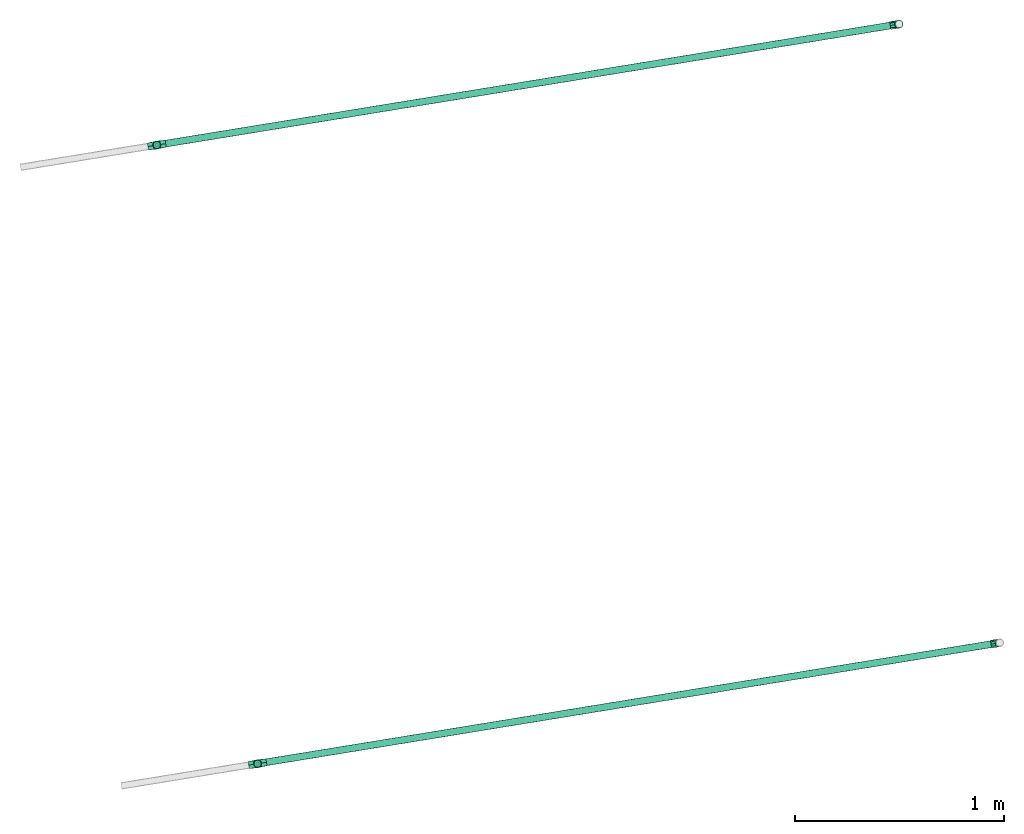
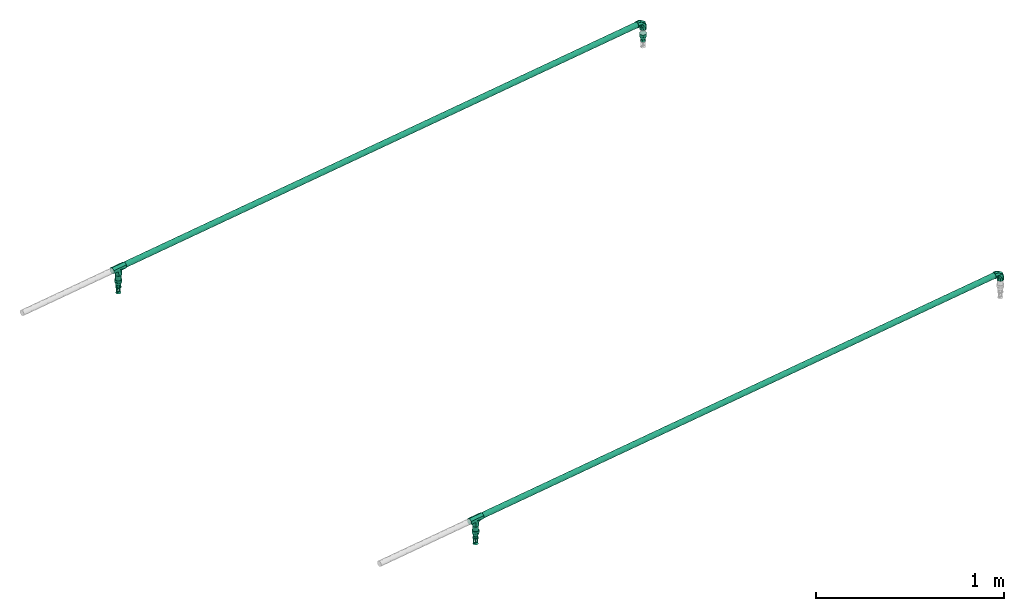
# One storey, part 1 of 3: 7 flow fittings, 4 flow segments, 2 flow terminals.
"""IFC2X3 building model written with IfcOpenShell, lengths in millimetres."""

from ifc_helpers import new_model, entity, si_unit, converted_unit, derived_unit, direction, frame, origin, origin_with_axes, origin_2d_with_axis, place, context, subcontext, project, spatial, circle, extrude, faceted_brep, source, transform, mapped, material, type_object, element, save


model = new_model("IFC2X3")

# Units and contexts
plan_context = context("Plan", 3, precision=1e-05, world=origin_with_axes())
model_context = context("Model", 3, precision=0.01, world=origin(), true_north=direction((6.12323399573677e-17, 1.0)))
body_context = subcontext(model_context, "Body", "Model", "MODEL_VIEW")
ifc_project = project(units=[converted_unit("PLANEANGLEUNIT", "DEGREE", entity("IfcPositiveLengthMeasure", 0.0174532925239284), si_unit("PLANEANGLEUNIT", "RADIAN"), dimensions=[0, 0, 0, 0, 0, 0, 0]), si_unit("AREAUNIT", "SQUARE_METRE"), si_unit("LENGTHUNIT", "METRE", prefix="MILLI"), si_unit("MASSUNIT", "GRAM", prefix="KILO"), si_unit("POWERUNIT", "WATT"), si_unit("PRESSUREUNIT", "PASCAL", prefix="KILO"), si_unit("FORCEUNIT", "NEWTON", prefix="KILO"), si_unit("ELECTRICVOLTAGEUNIT", "VOLT"), si_unit("ELECTRICCURRENTUNIT", "AMPERE"), si_unit("THERMODYNAMICTEMPERATUREUNIT", "DEGREE_CELSIUS"), si_unit("TIMEUNIT", "SECOND"), si_unit("VOLUMEUNIT", "CUBIC_METRE"), derived_unit("LINEARVELOCITYUNIT", [(si_unit("LENGTHUNIT", "METRE"), 1), (si_unit("TIMEUNIT", "SECOND"), -1)]), derived_unit("VOLUMETRICFLOWRATEUNIT", [(si_unit("VOLUMEUNIT", "CUBIC_METRE"), 1), (si_unit("TIMEUNIT", "SECOND"), -1)]), derived_unit("THERMALTRANSMITTANCEUNIT", [(si_unit("POWERUNIT", "WATT"), 1), (si_unit("THERMODYNAMICTEMPERATUREUNIT", "KELVIN"), -1), (si_unit("AREAUNIT", "SQUARE_METRE"), -1)]), derived_unit("SOUNDPRESSUREUNIT", [(si_unit("PRESSUREUNIT", "PASCAL"), 1)])], contexts=[model_context, plan_context])

# Site, building, storey
site_placement = place(None, frame((-3.09682673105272e-06, 1.93776733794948e-05, 0.0), z_axis=(0.0, 0.0, 1.0), x_axis=(-0.160806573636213, 0.986985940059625, 0.0)))
site = spatial("IfcSite", under=ifc_project, at=site_placement, Name="Default", CompositionType="ELEMENT")
building_placement = place(site_placement, frame((0.0, 0.0, 0.0), z_axis=(0.0, 0.0, 1.0), x_axis=(1.0, -2.77555756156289e-17, 0.0)))
building = spatial("IfcBuilding", under=site, at=building_placement, Name="Bygning (endres i Project Information)", CompositionType="ELEMENT")
storey_placement = place(building_placement, frame((0.0, 0.0, 51360.0000000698), z_axis=(0.0, 0.0, 1.0), x_axis=(1.0, -2.77555756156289e-17, 0.0)))
storey = spatial("IfcBuildingStorey", under=building, at=storey_placement, Name="H01-Nivå D+0,36", CompositionType="ELEMENT", Elevation=51360.0000000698)

# Flow fittings
ifc_material = material(Name="3320.001")
pipe_fitting_type_1 = type_object("IfcPipeFittingType", Name="RS_53_PIF_UN_Tee-Reduced-EN10241_MC_gen:RS_53_PIF_UN_Tee-Reduced-EN10241_MC_gen", PredefinedType="NOTDEFINED", material=ifc_material)
shared_shape_1 = source(origin(), body_context, "Body", "Brep", [
    faceted_brep([(43.0, 19.7499999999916, 0.0), (43.0, 14.8124999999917, 8.55200086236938), (43.0, 9.87499999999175, 17.1040017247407), (43.0, 0.0, 17.1040017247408), (43.0, -9.87500000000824, 17.1040017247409), (43.0, -14.8125000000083, 8.55200086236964), (43.0, -19.7500000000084, 0.0), (43.0, -17.2812500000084, -4.27600043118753), (43.0, -14.8125000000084, -8.5520008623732), (43.0, -9.87500000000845, -17.1040017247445), (43.0, 0.0, -17.1040017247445), (43.0, 9.87499999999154, -17.1040017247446), (43.0, 14.8124999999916, -8.55200086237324), (-43.0, -9.87500000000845, -17.1040017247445), (-43.0, -14.8125000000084, -8.5520008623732), (-43.0, -19.7500000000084, 0.0), (-43.0, -17.2812500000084, 4.27600043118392), (-43.0, -14.8125000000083, 8.55200086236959), (-43.0, -9.87500000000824, 17.1040017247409), (-43.0, 0.0, 17.1040017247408), (-43.0, 9.87499999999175, 17.1040017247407), (-43.0, 15.496258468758, 7.36769645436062), (-43.0, 19.7499999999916, 0.0), (-43.0, 14.8124999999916, -8.55200086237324), (-43.0, 9.87499999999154, -17.1040017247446), (-43.0, 0.0, -17.1040017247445), (-15.7586280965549, -15.758628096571, 7.52077834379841), (-15.4097526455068, -15.4097526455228, 8.1781500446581), (-11.069505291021, -11.0695052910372, 16.3563000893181), (17.0407619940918, -17.0407619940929, 6.79466555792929), (19.7500000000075, -19.7500000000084, 0.0), (0.0, 0.0, 19.7499999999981), (14.3315239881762, -14.3315239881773, 13.5893311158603), (-19.7499999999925, -19.7500000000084, 0.0), (-17.040761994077, -17.0407619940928, -6.79466555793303), (-14.3315239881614, -14.3315239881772, -13.5893311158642), (0.0, 0.0, -19.7500000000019), (15.7586280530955, -15.7586280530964, -7.52077842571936), (11.0695052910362, -11.0695052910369, -16.3563000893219), (15.4097526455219, -15.4097526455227, -8.17815004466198), (9.87500000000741, -43.0, -17.1040017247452), (15.4962587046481, -43.0, -7.36769604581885), (19.7500000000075, -43.0, 0.0), (14.8125000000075, -43.0, 8.55200086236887), (9.87500000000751, -43.0, 17.1040017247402), (0.0, -43.0, 17.1040017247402), (-9.87499999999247, -43.0, 17.1040017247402), (-15.4962580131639, -43.0, 7.36769724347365), (-19.7499999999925, -43.0, 0.0), (-14.8124999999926, -43.0, -8.55200086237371), (-9.87499999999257, -43.0, -17.1040017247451), (0.0, -43.0, -17.1040017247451)], [[[0, 1, 2, 3, 4, 5, 6, 7, 8, 9, 10, 11, 12]], [[13, 14, 15, 16, 17, 18, 19, 20, 21, 22, 23, 24, 25]], [[2, 1, 0, 22, 21, 20]], [[17, 26, 27, 28]], [[6, 29, 30]], [[2, 20, 31]], [[5, 32, 29]], [[3, 2, 31, 4]], [[26, 17, 16]], [[19, 18, 28]], [[33, 16, 15]], [[28, 18, 17]], [[32, 4, 31]], [[33, 26, 16]], [[5, 29, 6]], [[31, 20, 19]], [[32, 5, 4]], [[28, 31, 19]], [[34, 15, 14]], [[35, 14, 13]], [[36, 13, 25, 24]], [[37, 8, 7]], [[8, 38, 9]], [[15, 34, 33]], [[6, 30, 7]], [[14, 35, 34]], [[13, 36, 35]], [[8, 37, 39, 38]], [[0, 12, 11, 24, 23, 22]], [[38, 10, 9]], [[38, 36, 10]], [[11, 36, 24]], [[30, 37, 7]], [[36, 11, 10]], [[40, 41, 42, 43, 44, 45, 46, 47, 48, 49, 50, 51]], [[49, 33, 34, 35]], [[41, 39, 37, 30]], [[35, 50, 49]], [[33, 49, 48]], [[38, 51, 36]], [[40, 51, 38]], [[40, 39, 41]], [[30, 42, 41]], [[39, 40, 38]], [[51, 50, 36]], [[36, 50, 35]], [[43, 30, 29, 32]], [[32, 44, 43]], [[31, 44, 32]], [[30, 43, 42]], [[28, 45, 31]], [[46, 45, 28]], [[46, 27, 47]], [[46, 28, 27]], [[47, 27, 26, 33]], [[33, 48, 47]], [[45, 44, 31]]]),
])
for number, where, z_axis, x_axis in (
    (1, (974074.474921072, -366862.17591735, 2040.0), (1.0, -2.77555756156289e-17, 0.0), (2.77555756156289e-17, 1.0, 0.0)),
    (2, (977072.416933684, -366862.17591735, 2040.0), (1.0, -2.77555756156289e-17, 0.0), (2.77555756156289e-17, 1.0, 0.0)),
):
    element("IfcFlowFitting", number, at=place(storey_placement, frame(where, z_axis=z_axis, x_axis=x_axis)), inside=storey, type_object=pipe_fitting_type_1, material=ifc_material, Name="RS_53_PIF_UN_Tee-Reduced-EN10241_MC_gen:RS_53_PIF_UN_Tee-Reduced-EN10241_MC_gen", ObjectType="RS_53_PIF_UN_Tee-Reduced-EN10241_MC_gen:RS_53_PIF_UN_Tee-Reduced-EN10241_MC_gen", context=body_context, shape_type="MappedRepresentation", body=[
        mapped(shared_shape_1, transform((0.0, 0.0, 0.0), scale=1.0)),
    ])
pipe_fitting_type_2 = type_object("IfcPipeFittingType", Name="RS_53_PIF_UN_Reducing-Socket-EN10241_MC_gen:RS_53_PIF_UN_Reducing-Socket-EN10241_MC_gen", PredefinedType="NOTDEFINED", material=ifc_material)
shared_shape_2 = source(origin(), body_context, "Body", "Brep", [
    faceted_brep([(0.0, 5.11167614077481, 19.0770350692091), (0.0, 9.87500000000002, 17.1040017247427), (0.0, 13.9653589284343, 13.9653589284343), (0.0, 17.1040017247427, 9.87499999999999), (0.0, 19.0770350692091, 5.11167614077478), (0.0, 19.75, 0.0), (0.0, 19.0770350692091, -5.1116761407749), (0.0, 17.1040017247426, -9.8750000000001), (0.0, 13.9653589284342, -13.9653589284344), (0.0, 9.87499999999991, -17.1040017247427), (0.0, 5.11167614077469, -19.0770350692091), (0.0, 0.0, -19.75), (0.0, -5.11167614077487, -19.0770350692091), (0.0, -9.87500000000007, -17.1040017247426), (0.0, -13.9653589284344, -13.9653589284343), (0.0, -17.1040017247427, -9.87499999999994), (0.0, -19.0770350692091, -5.11167614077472), (0.0, -19.75, 0.0), (0.0, -19.0770350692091, 5.11167614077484), (0.0, -17.1040017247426, 9.87500000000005), (0.0, -13.9653589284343, 13.9653589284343), (0.0, -9.87499999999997, 17.1040017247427), (0.0, -5.11167614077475, 19.0770350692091), (0.0, 0.0, 19.75), (17.0, -6.65118285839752, -18.277344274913), (17.0, -15.1289479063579, -12.6955675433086), (17.0, -16.8438814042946, -9.72538978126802), (17.0, -18.5588149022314, -6.7552120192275), (17.0, -9.87413131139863, -17.1045032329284), (17.0, -12.5015396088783, -14.9000353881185), (17.0, -19.1544074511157, -3.37760600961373), (17.0, -3.42823440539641, -19.4501853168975), (17.0, 3.43119786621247, -19.4496627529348), (17.0, 0.0014817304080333, -19.4499240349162), (17.0, -19.75, 0.0), (17.0, 6.65396758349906, -18.2763306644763), (17.0, 9.87673730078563, -17.1029985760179), (17.0, 18.5598439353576, -6.75238425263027), (17.0, 16.8453630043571, -9.7228232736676), (17.0, 15.1308820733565, -12.6932622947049), (17.0, 12.5038096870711, -14.8981304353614), (17.0, 19.75, 0.0), (17.0, 15.1308820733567, 12.6932622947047), (17.0, 16.8453630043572, 9.72282327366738), (17.0, 18.5598439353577, 6.75238425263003), (17.0, 9.87673730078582, 17.1029985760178), (17.0, 12.5038096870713, 14.8981304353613), (17.0, 3.43119786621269, 19.4496627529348), (17.0, 6.65396758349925, 18.2763306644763), (17.0, -3.4282344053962, 19.4501853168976), (17.0, 0.00148173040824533, 19.4499240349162), (17.0, -15.1289479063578, 12.6955675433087), (17.0, -6.65118285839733, 18.277344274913), (17.0, -9.87413131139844, 17.1045032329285), (17.0, -12.5015396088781, 14.9000353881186), (17.0, -19.1544074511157, 3.37760600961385), (17.0, -18.5588149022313, 6.75521201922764), (17.0, -16.8438814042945, 9.72538978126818), (34.0, 13.5000000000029, 0.0), (34.0, 12.6868795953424, -4.61444320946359), (34.0, -4.54589529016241, -12.4935366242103), (34.0, -2.34276817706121, -13.2951659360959), (34.0, 6.75195505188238, -11.6902139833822), (34.0, 0.00166747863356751, -13.2948718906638), (34.0, 2.34610313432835, -13.2945778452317), (34.0, 10.3432928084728, -8.67561489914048), (34.0, 8.54762393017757, -10.1829144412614), (34.0, 4.54902909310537, -12.492395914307), (34.0, 11.5150862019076, -6.64502905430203), (34.0, -6.74902240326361, -11.6919073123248), (34.0, -13.4999999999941, 0.0), (34.0, -13.0928608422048, -2.30881275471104), (34.0, -10.3411162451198, -8.6782091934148), (34.0, -8.54506932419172, -10.1850582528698), (34.0, -12.6857216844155, -4.61762550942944), (34.0, -11.5134189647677, -6.64791735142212), (34.0, -13.0928608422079, 2.30881275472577), (34.0, -12.6857216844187, 4.6176255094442), (34.0, 2.34610313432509, 13.2945778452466), (34.0, 4.54902909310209, 12.4923959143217), (34.0, -10.3411162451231, 8.67820919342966), (34.0, 0.00166747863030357, 13.2948718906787), (34.0, -6.74902240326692, 11.6919073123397), (34.0, -8.54506932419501, 10.1850582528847), (34.0, -11.5134189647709, 6.64791735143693), (34.0, -2.34276817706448, 13.2951659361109), (34.0, -4.5458952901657, 12.4935366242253), (34.0, 12.6868795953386, 4.61444320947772), (34.0, 11.5150862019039, 6.64502905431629), (34.0, 10.3432928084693, 8.67561489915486), (34.0, 6.7519550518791, 11.6902139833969), (34.0, 8.54762393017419, 10.1829144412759), (51.0, 3.49405710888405, -13.0399986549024), (51.0, 6.75000000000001, -11.6913429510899), (51.0, 9.5459415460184, -9.54594154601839), (51.0, 11.6913429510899, -6.74999999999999), (51.0, 13.0399986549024, -3.49405710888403), (51.0, 13.5, 0.0), (51.0, 13.0399986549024, 3.49405710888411), (51.0, 11.6913429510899, 6.75000000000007), (51.0, 9.54594154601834, 9.54594154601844), (51.0, 6.74999999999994, 11.69134295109), (51.0, 3.49405710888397, 13.0399986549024), (51.0, 0.0, 13.5), (51.0, -3.49405710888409, 13.0399986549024), (51.0, -6.75000000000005, 11.6913429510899), (51.0, -9.54594154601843, 9.54594154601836), (51.0, -11.6913429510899, 6.74999999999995), (51.0, -13.0399986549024, 3.49405710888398), (51.0, -13.5, 0.0), (51.0, -13.0399986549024, -3.49405710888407), (51.0, -11.6913429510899, -6.75000000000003), (51.0, -9.54594154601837, -9.54594154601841), (51.0, -6.74999999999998, -11.6913429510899), (51.0, -3.49405710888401, -13.0399986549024), (51.0, 0.0, -13.5)], [[[0, 1, 2, 3, 4, 5, 6, 7, 8, 9, 10, 11, 12, 13, 14, 15, 16, 17, 18, 19, 20, 21, 22, 23]], [[24, 13, 12]], [[15, 14, 25]], [[15, 25, 26, 27]], [[28, 29, 13]], [[16, 27, 30]], [[30, 17, 16]], [[15, 27, 16]], [[12, 31, 24]], [[25, 14, 29]], [[11, 32, 33, 31]], [[24, 28, 13]], [[13, 29, 14]], [[30, 34, 17]], [[32, 11, 10]], [[35, 9, 36]], [[7, 37, 38, 39]], [[9, 35, 10]], [[7, 6, 37]], [[8, 39, 40]], [[32, 10, 35]], [[7, 39, 8]], [[40, 36, 9]], [[6, 41, 37]], [[6, 5, 41]], [[11, 31, 12]], [[40, 9, 8]], [[41, 5, 4]], [[3, 2, 42]], [[3, 42, 43, 44]], [[45, 46, 1]], [[44, 41, 4]], [[0, 47, 48]], [[42, 2, 46]], [[23, 49, 50, 47]], [[1, 46, 2]], [[49, 23, 22]], [[19, 51, 20]], [[52, 21, 53]], [[3, 44, 4]], [[48, 45, 1]], [[54, 53, 21]], [[17, 34, 55]], [[21, 52, 22]], [[20, 51, 54]], [[49, 22, 52]], [[48, 1, 0]], [[17, 55, 18]], [[56, 19, 18]], [[18, 55, 56]], [[54, 21, 20]], [[57, 51, 19, 56]], [[23, 47, 0]], [[41, 58, 59]], [[60, 31, 61]], [[40, 62, 36]], [[63, 32, 64]], [[65, 39, 38]], [[64, 32, 35]], [[61, 33, 63]], [[37, 41, 59]], [[62, 40, 66]], [[40, 39, 66]], [[35, 36, 67]], [[65, 38, 68]], [[37, 68, 38]], [[64, 35, 67]], [[61, 31, 33]], [[69, 28, 24]], [[69, 24, 60]], [[70, 30, 71]], [[72, 29, 73]], [[30, 70, 34]], [[74, 27, 26]], [[68, 37, 59]], [[72, 25, 29]], [[27, 74, 71]], [[31, 60, 24]], [[29, 28, 73]], [[75, 26, 25]], [[67, 36, 62]], [[66, 39, 65]], [[27, 71, 30]], [[74, 26, 75]], [[73, 28, 69]], [[63, 33, 32]], [[75, 25, 72]], [[56, 76, 77]], [[48, 78, 79]], [[54, 51, 80]], [[81, 47, 50]], [[57, 56, 77]], [[52, 53, 82]], [[82, 53, 83]], [[55, 70, 76]], [[70, 55, 34]], [[84, 51, 57]], [[50, 85, 81]], [[56, 55, 76]], [[86, 49, 52]], [[83, 53, 54]], [[81, 78, 47]], [[48, 47, 78]], [[80, 51, 84]], [[49, 85, 50]], [[87, 44, 88]], [[87, 58, 41]], [[43, 42, 89]], [[57, 77, 84]], [[46, 45, 90]], [[85, 49, 86]], [[88, 44, 43]], [[54, 80, 83]], [[91, 42, 46]], [[52, 82, 86]], [[89, 42, 91]], [[87, 41, 44]], [[90, 45, 79]], [[46, 90, 91]], [[79, 45, 48]], [[43, 89, 88]], [[92, 93, 94, 95, 96, 97, 98, 99, 100, 101, 102, 103, 104, 105, 106, 107, 108, 109, 110, 111, 112, 113, 114, 115]], [[58, 97, 96]], [[95, 94, 65]], [[95, 65, 68, 59]], [[62, 66, 93]], [[59, 58, 96]], [[92, 64, 67]], [[65, 94, 66]], [[115, 61, 63, 64]], [[93, 66, 94]], [[67, 93, 92]], [[67, 62, 93]], [[95, 59, 96]], [[114, 61, 115]], [[111, 110, 74]], [[73, 113, 112]], [[109, 71, 110]], [[111, 74, 75, 72]], [[109, 70, 71]], [[60, 61, 114]], [[113, 69, 60]], [[111, 72, 112]], [[113, 60, 114]], [[112, 72, 73]], [[115, 64, 92]], [[71, 74, 110]], [[73, 69, 113]], [[86, 105, 104]], [[107, 106, 80]], [[107, 80, 84, 77]], [[82, 83, 105]], [[108, 77, 76]], [[76, 70, 109]], [[76, 109, 108]], [[104, 85, 86]], [[80, 106, 83]], [[103, 78, 81, 85]], [[91, 101, 100]], [[105, 83, 106]], [[86, 82, 105]], [[78, 103, 102]], [[79, 101, 90]], [[99, 87, 88, 89]], [[101, 79, 102]], [[99, 98, 87]], [[100, 89, 91]], [[78, 102, 79]], [[103, 85, 104]], [[99, 89, 100]], [[98, 58, 87]], [[107, 77, 108]], [[98, 97, 58]], [[91, 90, 101]]]),
])
for number, where, z_axis, x_axis in (
    (3, (974074.474921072, -366862.17591735, 1967.14570380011), (1.0, -2.77555756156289e-17, 0.0), (0.0, 0.0, -1.0)),
    (4, (977072.416933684, -366862.17591735, 1967.14570380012), (1.0, -2.77555756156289e-17, 0.0), (0.0, 0.0, -1.0)),
    (5, (977072.416933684, -370459.691563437, 1967.14570380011), (1.0, -2.77555756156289e-17, 0.0), (0.0, 0.0, -1.0)),
):
    element("IfcFlowFitting", number, at=place(storey_placement, frame(where, z_axis=z_axis, x_axis=x_axis)), inside=storey, type_object=pipe_fitting_type_2, material=ifc_material, Name="RS_53_PIF_UN_Reducing-Socket-EN10241_MC_gen:RS_53_PIF_UN_Reducing-Socket-EN10241_MC_gen", ObjectType="RS_53_PIF_UN_Reducing-Socket-EN10241_MC_gen:RS_53_PIF_UN_Reducing-Socket-EN10241_MC_gen", context=body_context, shape_type="MappedRepresentation", body=[
        mapped(shared_shape_2, transform((0.0, 0.0, 0.0), scale=1.0)),
    ])
pipe_fitting_type_3 = type_object("IfcPipeFittingType", Name="RS_53_PIF_UN_Elbow-EN10241_NOR:RS_53_PIF_UN_Elbow-EN10241_NOR", PredefinedType="NOTDEFINED", material=ifc_material)
shared_shape_3 = source(origin(), body_context, "Body", "Brep", [
    faceted_brep([(-43.0, 5.11167614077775, 19.0770350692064), (-43.0, 17.1040017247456, 9.87499999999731), (-43.0, 19.7500000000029, 0.0), (-43.0, 17.1040017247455, -9.87500000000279), (-43.0, 5.11167614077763, -19.0770350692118), (-43.0, -5.11167614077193, -19.0770350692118), (-43.0, -17.1040017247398, -9.87500000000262), (-43.0, -19.7499999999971, 0.0), (-43.0, -17.1040017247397, 9.87499999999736), (-43.0, -5.11167614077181, 19.0770350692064), (-21.7499999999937, -19.7499999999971, 0.0), (-21.7499999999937, -15.1293510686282, -12.6950870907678), (-21.7499999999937, -3.42946974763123, -19.4499675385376), (-21.7499999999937, 15.1294711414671, -12.694943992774), (-21.7499999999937, 19.7500000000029, 0.0), (-21.7499999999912, 5.85000069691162, -16.072455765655), (-21.7499999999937, 15.1294711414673, 12.6949439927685), (-21.7499999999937, 3.42965371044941, 19.4499351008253), (-21.7499999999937, -15.1293510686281, 12.6950870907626), (-5.41688095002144, -10.3200693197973, 0.0), (0.655979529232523, -2.00253561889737, 16.4678355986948), (-11.0449015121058, 9.84579831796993, 18.897380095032), (-18.5589216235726, 21.7499999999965, 6.75491881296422), (-15.1293490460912, 21.7499999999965, 12.6950895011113), (-20.3357864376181, 20.3357864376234, 0.0), (-19.7499999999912, 21.7499999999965, 0.0), (14.190054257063, 1.0, 0.0), (12.6950125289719, 21.7499999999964, 15.1294136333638), (6.75482439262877, 21.7499999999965, 18.5589559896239), (17.2232575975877, 12.3200689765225, 0.0), (-6.754824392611, 21.7499999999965, 18.558955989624), (19.7500000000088, 21.7499999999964, 0.0), (18.5589216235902, 21.7499999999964, 6.75491881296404), (0.0, 21.7499999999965, 19.7499999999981), (-18.5589216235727, 21.7499999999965, -6.75491881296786), (-10.1618436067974, 10.1618877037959, -19.0082217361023), (1.2569166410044, -0.890945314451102, -16.7093898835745), (0.0, 21.7499999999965, -19.7500000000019), (-6.75482439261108, 21.7499999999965, -18.5589559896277), (-12.6950125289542, 21.7499999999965, -15.1294136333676), (18.5589216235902, 21.7499999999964, -6.75491881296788), (15.1293490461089, 21.7499999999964, -12.6950895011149), (6.75482439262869, 21.7499999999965, -18.5589559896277), (-9.8749999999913, 43.0, 17.1040017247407), (0.0, 43.0, 19.7499999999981), (9.8750000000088, 43.0, 17.1040017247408), (19.0770350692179, 43.0, 5.11167614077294), (19.0770350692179, 43.0, -5.11167614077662), (9.87500000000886, 43.0, -17.1040017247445), (0.0, 43.0, -19.7500000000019), (-9.87499999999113, 43.0, -17.1040017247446), (-19.0770350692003, 43.0, -5.11167614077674), (-19.0770350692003, 43.0, 5.11167614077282)], [[[0, 1, 2, 3, 4, 5, 6, 7, 8, 9]], [[7, 6, 10]], [[6, 11, 10]], [[11, 6, 5]], [[11, 5, 12]], [[13, 4, 3]], [[14, 3, 2]], [[4, 13, 15, 12]], [[13, 3, 14]], [[4, 12, 5]], [[2, 1, 14]], [[1, 16, 14]], [[16, 1, 0]], [[16, 0, 17]], [[18, 9, 8]], [[10, 8, 7]], [[9, 18, 17]], [[18, 8, 10]], [[9, 17, 0]], [[18, 19, 20]], [[20, 21, 17]], [[22, 16, 23]], [[16, 17, 21]], [[24, 14, 22]], [[22, 25, 24]], [[14, 16, 22]], [[20, 26, 27]], [[27, 28, 20]], [[26, 29, 27]], [[23, 21, 30]], [[31, 32, 29]], [[18, 20, 17]], [[26, 20, 19]], [[21, 23, 16]], [[18, 10, 19]], [[33, 21, 20]], [[33, 30, 21]], [[27, 29, 32]], [[33, 20, 28]], [[14, 24, 34]], [[25, 34, 24]], [[12, 35, 36]], [[14, 34, 13]], [[36, 19, 11]], [[37, 35, 38]], [[38, 35, 39]], [[10, 11, 19]], [[34, 39, 13]], [[37, 36, 35]], [[36, 11, 12]], [[39, 35, 13]], [[40, 31, 29]], [[41, 36, 42]], [[36, 37, 42]], [[41, 40, 29]], [[26, 36, 41]], [[29, 26, 41]], [[19, 36, 26]], [[13, 35, 12, 15]], [[43, 44, 45, 46, 47, 48, 49, 50, 51, 52]], [[49, 37, 38]], [[50, 38, 39]], [[49, 38, 50]], [[51, 50, 39]], [[51, 34, 25]], [[34, 51, 39]], [[52, 25, 22]], [[22, 23, 52]], [[30, 43, 23]], [[52, 23, 43]], [[44, 43, 30]], [[33, 44, 30]], [[25, 52, 51]], [[44, 33, 28]], [[45, 28, 27]], [[44, 28, 45]], [[46, 45, 27]], [[46, 32, 31]], [[32, 46, 27]], [[47, 31, 40]], [[40, 41, 47]], [[42, 48, 41]], [[47, 41, 48]], [[49, 48, 42]], [[37, 49, 42]], [[31, 47, 46]]]),
])
for number, where, z_axis, x_axis in (
    (6, (974074.474921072, -370459.691563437, 2040.0), (1.0, -2.77555756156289e-17, 0.0), (-2.77555756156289e-17, -1.0, 0.0)),
    (7, (977072.416933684, -370459.691563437, 2040.0), (1.0, -2.77555756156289e-17, 0.0), (-2.77555756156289e-17, -1.0, 0.0)),
):
    element("IfcFlowFitting", number, at=place(storey_placement, frame(where, z_axis=z_axis, x_axis=x_axis)), inside=storey, type_object=pipe_fitting_type_3, material=ifc_material, Name="RS_53_PIF_UN_Elbow-EN10241_NOR:RS_53_PIF_UN_Elbow-EN10241_NOR", ObjectType="RS_53_PIF_UN_Elbow-EN10241_NOR:RS_53_PIF_UN_Elbow-EN10241_NOR", context=body_context, shape_type="MappedRepresentation", body=[
        mapped(shared_shape_3, transform((0.0, 0.0, 0.0), scale=1.0)),
    ])

# Flow terminals
fire_suppression_terminal_type = type_object("IfcFireSuppressionTerminalType", Name="SSP K80 HIMLING:SP-15-K80-68DGR-RS", PredefinedType="NOTDEFINED", material=ifc_material)
shared_shape_4 = source(origin(), body_context, "Body", "Brep", [
    faceted_brep([(-2.5, 0.0, 57.0), (0.0, -2.5, 57.0), (2.5, 0.0, 57.0), (0.0, 2.5, 57.0), (-2.5, 0.0, 53.0), (0.0, 2.5, 53.0), (2.5, 0.0, 53.0), (0.0, -2.5, 53.0)], [[[0, 1, 2, 3]], [[4, 5, 6, 7]], [[0, 4, 7, 1]], [[7, 6, 2, 1]], [[2, 6, 5, 3]], [[5, 4, 0, 3]]]),
    faceted_brep([(1.0, -15.5, 51.0), (1.0, -15.5, 19.0), (1.0, -10.5, 19.0), (1.0, -10.5, 45.0), (1.0, 10.5, 45.0), (1.0, 10.5, 19.0), (1.0, 15.5, 19.0), (1.0, 15.5, 51.0), (-1.0, -15.5, 51.0), (-1.0, 15.5, 51.0), (-1.0, 15.5, 19.0), (-1.0, 10.5, 19.0), (-1.0, 10.5, 45.0), (-1.0, -10.5, 45.0), (-1.0, -10.5, 19.0), (-1.0, -15.5, 19.0)], [[[0, 1, 2, 3, 4, 5, 6, 7]], [[8, 9, 10, 11, 12, 13, 14, 15]], [[1, 0, 8, 15]], [[2, 1, 15, 14]], [[3, 2, 14, 13]], [[4, 3, 13, 12]], [[5, 4, 12, 11]], [[6, 5, 11, 10]], [[7, 6, 10, 9]], [[0, 7, 9, 8]]]),
    faceted_brep([(-8.5, 1.0, 45.0), (8.5, 1.0, 45.0), (8.5, 1.0, 19.0), (5.5, 1.0, 19.0), (5.5, 1.0, 42.0), (-5.5, 1.0, 42.0), (-5.5, 1.0, 19.0), (-8.5, 1.0, 19.0), (-8.5, -1.0, 45.0), (-8.5, -1.0, 19.0), (-5.5, -1.0, 19.0), (-5.5, -1.0, 42.0), (5.5, -1.0, 42.0), (5.5, -1.0, 19.0), (8.5, -1.0, 19.0), (8.5, -1.0, 45.0)], [[[0, 1, 2, 3, 4, 5, 6, 7]], [[8, 9, 10, 11, 12, 13, 14, 15]], [[1, 0, 8, 15]], [[2, 1, 15, 14]], [[3, 2, 14, 13]], [[4, 3, 13, 12]], [[5, 4, 12, 11]], [[6, 5, 11, 10]], [[7, 6, 10, 9]], [[0, 7, 9, 8]]]),
    faceted_brep([(11.3137084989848, 11.3137084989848, 53.0), (0.0, 16.0, 53.0), (-11.3137084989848, 11.3137084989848, 53.0), (-16.0, 0.0, 53.0), (-11.3137084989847, -11.3137084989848, 53.0), (0.0, -16.0, 53.0), (11.3137084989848, -11.3137084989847, 53.0), (16.0, 0.0, 53.0), (-2.5, 0.0, 51.0), (0.0, 2.5, 51.0), (2.5, 0.0, 51.0), (0.0, -2.5, 51.0)], [[[0, 1, 2, 3, 4, 5, 6, 7]], [[8, 9, 10, 11]], [[4, 11, 5]], [[11, 4, 8]], [[4, 3, 8]], [[11, 10, 6]], [[7, 6, 10]], [[11, 6, 5]], [[0, 9, 1]], [[9, 0, 10]], [[0, 7, 10]], [[9, 8, 2]], [[3, 2, 8]], [[9, 2, 1]]]),
    faceted_brep([(4.14110472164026, -15.4548132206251, 19.0), (8.0, -13.8564064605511, 19.0), (11.3137084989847, -11.3137084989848, 19.0), (13.856406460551, -8.0, 19.0), (15.4548132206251, -4.14110472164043, 19.0), (16.0, 0.0, 19.0), (15.4548132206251, 4.14110472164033, 19.0), (13.856406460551, 8.0, 19.0), (11.3137084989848, 11.3137084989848, 19.0), (8.0, 13.856406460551, 19.0), (4.14110472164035, 15.4548132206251, 19.0), (0.0, 16.0, 19.0), (-4.14110472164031, 15.4548132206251, 19.0), (-8.0, 13.856406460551, 19.0), (-11.3137084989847, 11.3137084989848, 19.0), (-13.856406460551, 8.0, 19.0), (-15.4548132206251, 4.14110472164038, 19.0), (-16.0, 0.0, 19.0), (-15.4548132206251, -4.14110472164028, 19.0), (-13.8564064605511, -8.0, 19.0), (-11.3137084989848, -11.3137084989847, 19.0), (-8.0, -13.856406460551, 19.0), (-4.1411047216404, -15.4548132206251, 19.0), (0.0, -16.0, 19.0), (4.14110472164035, 15.4548132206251, 13.0), (8.0, 13.856406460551, 13.0), (11.3137084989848, 11.3137084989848, 13.0), (13.856406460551, 8.0, 13.0), (15.4548132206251, 4.14110472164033, 13.0), (16.0, 0.0, 13.0), (15.4548132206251, -4.14110472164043, 13.0), (13.856406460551, -8.0, 13.0), (11.3137084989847, -11.3137084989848, 13.0), (8.0, -13.8564064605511, 13.0), (4.14110472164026, -15.4548132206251, 13.0), (0.0, -16.0, 13.0), (-4.1411047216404, -15.4548132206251, 13.0), (-8.0, -13.856406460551, 13.0), (-11.3137084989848, -11.3137084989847, 13.0), (-13.8564064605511, -8.0, 13.0), (-15.4548132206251, -4.14110472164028, 13.0), (-16.0, 0.0, 13.0), (-15.4548132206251, 4.14110472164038, 13.0), (-13.856406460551, 8.0, 13.0), (-11.3137084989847, 11.3137084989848, 13.0), (-8.0, 13.856406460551, 13.0), (-4.14110472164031, 15.4548132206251, 13.0), (0.0, 16.0, 13.0)], [[[0, 1, 2, 3, 4, 5, 6, 7, 8, 9, 10, 11, 12, 13, 14, 15, 16, 17, 18, 19, 20, 21, 22, 23]], [[24, 25, 26, 27, 28, 29, 30, 31, 32, 33, 34, 35, 36, 37, 38, 39, 40, 41, 42, 43, 44, 45, 46, 47]], [[40, 18, 17, 41]], [[39, 19, 18, 40]], [[21, 20, 38, 37]], [[39, 38, 20, 19]], [[22, 21, 37, 36]], [[23, 22, 36, 35]], [[34, 0, 23, 35]], [[33, 1, 0, 34]], [[3, 2, 32, 31]], [[33, 32, 2, 1]], [[4, 3, 31, 30]], [[5, 4, 30, 29]], [[28, 6, 5, 29]], [[27, 7, 6, 28]], [[9, 8, 26, 25]], [[27, 26, 8, 7]], [[10, 9, 25, 24]], [[11, 10, 24, 47]], [[46, 12, 11, 47]], [[45, 13, 12, 46]], [[15, 14, 44, 43]], [[45, 44, 14, 13]], [[16, 15, 43, 42]], [[17, 16, 42, 41]]]),
    faceted_brep([(-2.5, 0.0, 51.0), (0.0, -2.5, 51.0), (2.5, 0.0, 51.0), (0.0, 2.5, 51.0), (-2.5, 0.0, 19.0), (0.0, 2.5, 19.0), (2.5, 0.0, 19.0), (0.0, -2.5, 19.0)], [[[0, 1, 2, 3]], [[4, 5, 6, 7]], [[0, 4, 7, 1]], [[7, 6, 2, 1]], [[2, 6, 5, 3]], [[5, 4, 0, 3]]]),
    faceted_brep([(1.94114283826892, -7.24444369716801, 13.0), (3.75000000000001, -6.49519052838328, 13.0), (5.30330085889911, -5.3033008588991, 13.0), (6.49519052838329, -3.75, 13.0), (7.24444369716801, -1.9411428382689, 13.0), (7.5, 0.0, 13.0), (7.24444369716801, 1.9411428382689, 13.0), (6.49519052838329, 3.75, 13.0), (5.30330085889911, 5.3033008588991, 13.0), (3.75000000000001, 6.49519052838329, 13.0), (1.94114283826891, 7.24444369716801, 13.0), (0.0, 7.5, 13.0), (-1.94114283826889, 7.24444369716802, 13.0), (-3.74999999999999, 6.4951905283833, 13.0), (-5.3033008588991, 5.30330085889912, 13.0), (-6.49519052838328, 3.75000000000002, 13.0), (-7.24444369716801, 1.94114283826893, 13.0), (-7.5, 0.0, 13.0), (-7.244443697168, -1.94114283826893, 13.0), (-6.49519052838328, -3.75000000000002, 13.0), (-5.30330085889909, -5.30330085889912, 13.0), (-3.74999999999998, -6.4951905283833, 13.0), (-1.94114283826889, -7.24444369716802, 13.0), (0.0, -7.5, 13.0), (5.30330085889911, 5.3033008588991, 0.0), (6.49519052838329, 3.75, 0.0), (7.24444369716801, 1.9411428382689, 0.0), (7.5, 0.0, 0.0), (7.24444369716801, -1.9411428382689, 0.0), (6.49519052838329, -3.75, 0.0), (5.30330085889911, -5.3033008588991, 0.0), (3.75000000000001, -6.49519052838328, 0.0), (1.94114283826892, -7.24444369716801, 0.0), (0.0, -7.5, 0.0), (-1.94114283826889, -7.24444369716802, 0.0), (-3.74999999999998, -6.4951905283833, 0.0), (-5.30330085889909, -5.30330085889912, 0.0), (-6.49519052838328, -3.75000000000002, 0.0), (-7.244443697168, -1.94114283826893, 0.0), (-7.5, 0.0, 0.0), (-7.24444369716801, 1.94114283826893, 0.0), (-6.49519052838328, 3.75000000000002, 0.0), (-5.3033008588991, 5.30330085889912, 0.0), (-3.74999999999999, 6.4951905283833, 0.0), (-1.94114283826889, 7.24444369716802, 0.0), (0.0, 7.5, 0.0), (1.94114283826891, 7.24444369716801, 0.0), (3.75000000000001, 6.49519052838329, 0.0)], [[[0, 1, 2, 3, 4, 5, 6, 7, 8, 9, 10, 11, 12, 13, 14, 15, 16, 17, 18, 19, 20, 21, 22, 23]], [[24, 25, 26, 27, 28, 29, 30, 31, 32, 33, 34, 35, 36, 37, 38, 39, 40, 41, 42, 43, 44, 45, 46, 47]], [[38, 18, 17, 39]], [[37, 19, 18, 38]], [[21, 20, 36, 35]], [[37, 36, 20, 19]], [[22, 21, 35, 34]], [[23, 22, 34, 33]], [[32, 0, 23, 33]], [[31, 1, 0, 32]], [[3, 2, 30, 29]], [[31, 30, 2, 1]], [[4, 3, 29, 28]], [[5, 4, 28, 27]], [[26, 6, 5, 27]], [[25, 7, 6, 26]], [[9, 8, 24, 47]], [[25, 24, 8, 7]], [[10, 9, 47, 46]], [[11, 10, 46, 45]], [[44, 12, 11, 45]], [[43, 13, 12, 44]], [[15, 14, 42, 41]], [[43, 42, 14, 13]], [[16, 15, 41, 40]], [[17, 16, 40, 39]]]),
])
for number, where, z_axis, x_axis in (
    (8, (974074.474921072, -366862.17591735, 1933.14570380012), (0.0, 0.0, -1.0), (-1.0, 2.77555756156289e-17, 0.0)),
    (9, (977072.416933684, -366862.17591735, 1933.14570380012), (0.0, 0.0, -1.0), (-1.0, 2.77555756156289e-17, 0.0)),
):
    element("IfcFlowTerminal", number, at=place(storey_placement, frame(where, z_axis=z_axis, x_axis=x_axis)), inside=storey, type_object=fire_suppression_terminal_type, material=ifc_material, Name="SSP K80 HIMLING:SP-15-K80-68DGR-RS", ObjectType="SSP K80 HIMLING:SP-15-K80-68DGR-RS", context=body_context, shape_type="MappedRepresentation", body=[
        mapped(shared_shape_4, transform((0.0, 0.0, 0.0), scale=1.0)),
    ])

# Flow segments
pipe_segment_type = type_object("IfcPipeSegmentType", Name="Pipe Types:Stålrør sveist og gjenget", PredefinedType="NOTDEFINED", material=ifc_material)
flow_segment_1_placement = place(storey_placement, frame((0.0, 0.0, 0.0), z_axis=(0.0, 0.0, 1.0), x_axis=(1.0, -2.77555756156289e-17, 0.0)))
element("IfcFlowSegment", 10, at=flow_segment_1_placement, inside=storey, type_object=pipe_segment_type, Name="Pipe Types:Stålrør sveist og gjenget", ObjectType="Pipe Types:Stålrør sveist og gjenget", context=body_context, shape_type="SweptSolid", body=[
    extrude(circle(Radius=16.8500004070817, at=origin_2d_with_axis()), frame((974074.474921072, -370437.941563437, 2040.0), z_axis=(0.0, 1.0, 0.0), x_axis=(-1.0, 0.0, 0.0)), (0.0, 0.0, 1.0), 3551.86564608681),
])
flow_segment_2_placement = place(storey_placement, frame((0.0, 0.0, 0.0), z_axis=(0.0, 0.0, 1.0), x_axis=(1.0, -2.77555756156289e-17, 0.0)))
element("IfcFlowSegment", 11, at=flow_segment_2_placement, inside=storey, type_object=pipe_segment_type, Name="Pipe Types:Stålrør sveist og gjenget", ObjectType="Pipe Types:Stålrør sveist og gjenget", context=body_context, shape_type="SweptSolid", body=[
    extrude(circle(Radius=16.8500004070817, at=origin_2d_with_axis()), frame((974074.474921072, -366862.17591735, 1950.1457038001)), (0.0, 0.0, 1.0), 65.9542961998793),
])
flow_segment_3_placement = place(storey_placement, frame((0.0, 0.0, 0.0), z_axis=(0.0, 0.0, 1.0), x_axis=(1.0, -2.77555756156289e-17, 0.0)))
element("IfcFlowSegment", 12, at=flow_segment_3_placement, inside=storey, type_object=pipe_segment_type, Name="Pipe Types:Stålrør sveist og gjenget", ObjectType="Pipe Types:Stålrør sveist og gjenget", context=body_context, shape_type="SweptSolid", body=[
    extrude(circle(Radius=16.8500004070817, at=origin_2d_with_axis()), frame((977072.416933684, -370437.941563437, 2040.0), z_axis=(0.0, 1.0, 0.0), x_axis=(-1.0, 0.0, 0.0)), (0.0, 0.0, 1.0), 3551.86564608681),
])
flow_segment_4_placement = place(storey_placement, frame((0.0, 0.0, 0.0), z_axis=(0.0, 0.0, 1.0), x_axis=(1.0, -2.77555756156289e-17, 0.0)))
element("IfcFlowSegment", 13, at=flow_segment_4_placement, inside=storey, type_object=pipe_segment_type, Name="Pipe Types:Stålrør sveist og gjenget", ObjectType="Pipe Types:Stålrør sveist og gjenget", context=body_context, shape_type="SweptSolid", body=[
    extrude(circle(Radius=16.8500004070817, at=origin_2d_with_axis()), frame((977072.416933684, -366862.17591735, 1950.1457038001)), (0.0, 0.0, 1.0), 65.9542961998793),
])

save(model, "model.ifc")
